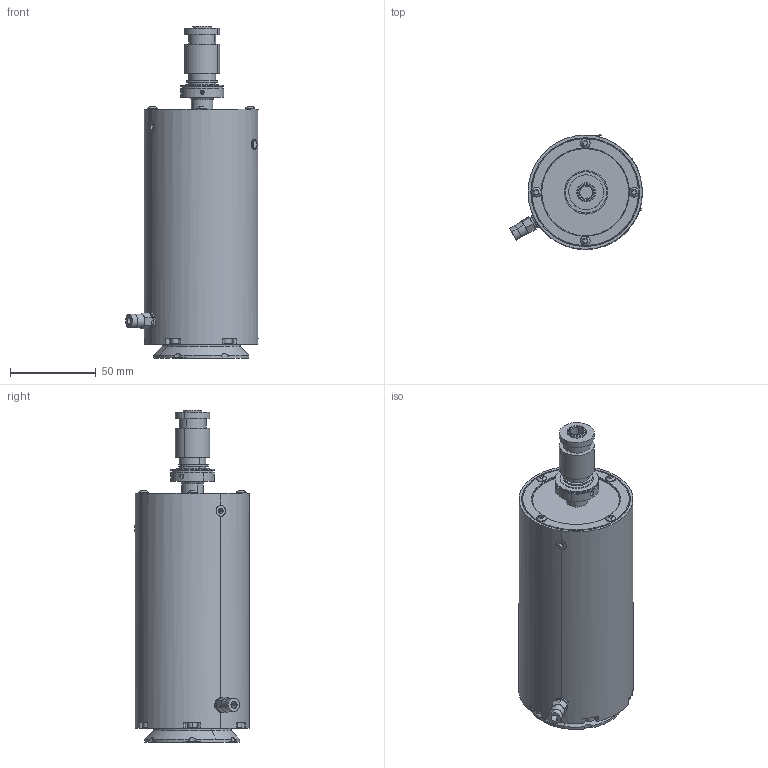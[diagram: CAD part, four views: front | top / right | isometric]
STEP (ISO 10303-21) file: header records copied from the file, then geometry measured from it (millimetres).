
FILE_DESCRIPTION (( 'STEP AP214' ), '1' );
FILE_NAME ('ATI-9150-CDB-8-11-000.STEP', '2020-07-30T08:31:08', ( '' ), ( '' ), 'SwSTEP 2.0', 'SolidWorks 2020', '' );
FILE_SCHEMA (( 'AUTOMOTIVE_DESIGN' ));
Length unit declared in the file: inch
Products named in the file (1): ATI-9150-CDB-8-11-000
Bounding box: 77.46 x 67.02 x 193.76 mm (x, y, z)
Volume: 498264.4 mm3; surface area: 47712.2 mm2
Topology: 1 solids, 1 shells, 417 faces, 1029 edges, 655 vertices
Faces by surface type: plane 198, cylinder 174, cone 35, sphere 8, torus 2
Entity records: 12853 total; most frequent: CARTESIAN_POINT 2701, DIRECTION 2229, ORIENTED_EDGE 2038, EDGE_CURVE 1019, AXIS2_PLACEMENT_3D 851, VERTEX_POINT 655, LINE 527, VECTOR 527
